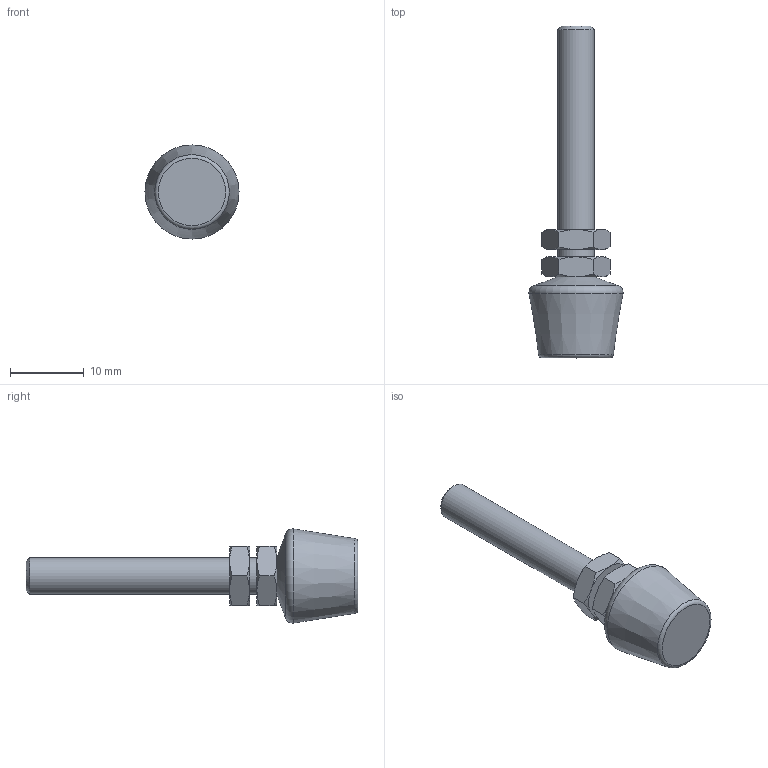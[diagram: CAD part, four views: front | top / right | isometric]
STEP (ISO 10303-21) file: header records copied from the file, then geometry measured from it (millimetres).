
FILE_DESCRIPTION( ( 'STEP AP203' ), '1' );
FILE_NAME( 'C:/Temp/Ganter_Step_05_03_2020/data/2_4/gn_708_1/gn_708_1_st/Clamping bolt GN 708.1-M5-45-A-ST (0).stp', '2020-03-13T05:51:04', ( 'License CC BY-ND 4.0' ), ( 'CADENAS' ), ' ', 'PARTsolutions', ' ' );
FILE_SCHEMA( ( 'CONFIG_CONTROL_DESIGN' ) );
Length unit declared in the file: millimetre
Products named in the file (3): Clamping bolt GN 708.1-M5-45-A-ST (0); _Andrueckschraube GN 708.1-M5-45-A-ST (0)-1; _Andrueckschraube GN 708.1-M5-45-A-ST2
Assembly tree (3 placements, depth 2):
  Clamping bolt GN 708.1-M5-45-A-ST (0)
    _Andrueckschraube GN 708.1-M5-45-A-ST (0)-1
    _Andrueckschraube GN 708.1-M5-45-A-ST2  x2
Bounding box: 12.77 x 45 x 12.77 mm (x, y, z)
Volume: 1972.8 mm3; surface area: 1444.9 mm2
Topology: 3 solids, 3 shells, 54 faces, 111 edges, 63 vertices
Faces by surface type: cone 31, plane 18, cylinder 3, torus 2
Full cylindrical faces by diameter (mm): 4.134 x2, 5 x1
Entity records: 922 total; most frequent: CARTESIAN_POINT 228, DIRECTION 122, ORIENTED_EDGE 106, AXIS2_PLACEMENT_3D 58, EDGE_CURVE 53, EDGE_LOOP 42, VERTEX_POINT 36, FACE_OUTER_BOUND 35
